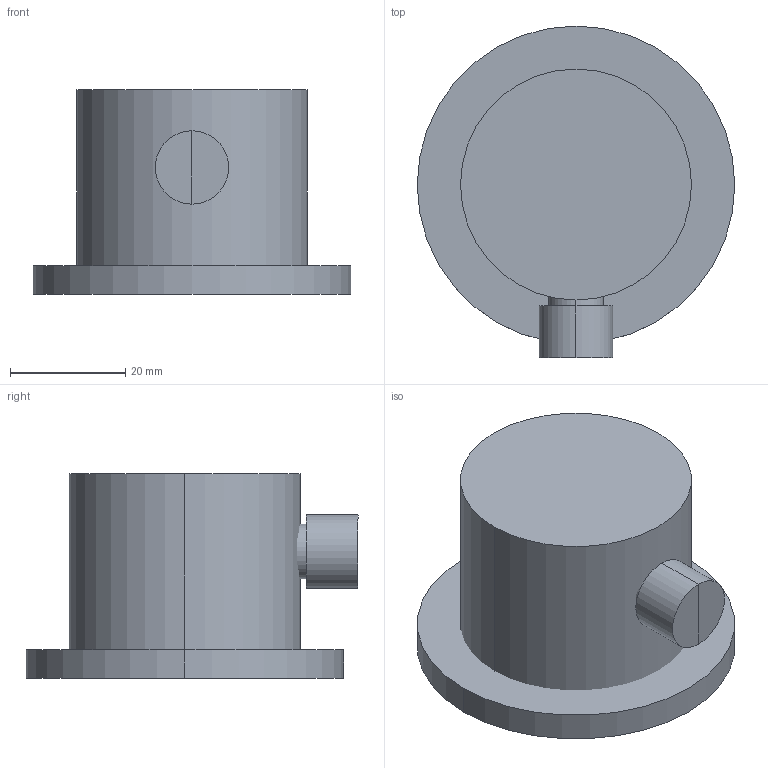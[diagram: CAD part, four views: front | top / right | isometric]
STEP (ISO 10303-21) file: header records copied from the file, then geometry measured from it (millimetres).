
FILE_DESCRIPTION(('FreeCAD Model'),'2;1');
FILE_NAME('Open CASCADE Shape Model','2024-08-12T22:16:17',('Author'),( ''),'Open CASCADE STEP processor 7.6','FreeCAD','Unknown');
FILE_SCHEMA(('AUTOMOTIVE_DESIGN { 1 0 10303 214 1 1 1 1 }'));
Length unit declared in the file: millimetre
Products named in the file (4): TopLevelAssembly; Wyciąganie001; Obrót profilu; Wyciąganie002
Assembly tree (3 placements, depth 2):
  TopLevelAssembly
    Wyciąganie001
    Obrót profilu
    Wyciąganie002
Bounding box: 55 x 57.5 x 35.5 mm (x, y, z)
Volume: 57916.3 mm3; surface area: 13323 mm2
Topology: 3 solids, 3 shells, 18 faces, 28 edges, 16 vertices
Faces by surface type: plane 10, cylinder 8
Entity records: 496 total; most frequent: DIRECTION 88, CARTESIAN_POINT 66, ORIENTED_EDGE 56, AXIS2_PLACEMENT_3D 38, EDGE_CURVE 28, ADVANCED_FACE 18, FACE_BOUND 18, EDGE_LOOP 18
